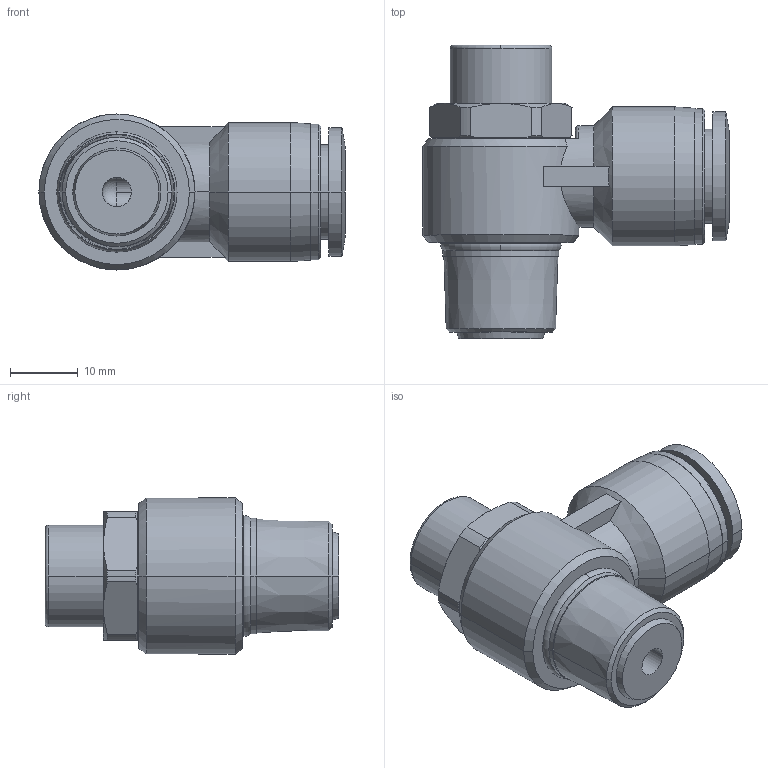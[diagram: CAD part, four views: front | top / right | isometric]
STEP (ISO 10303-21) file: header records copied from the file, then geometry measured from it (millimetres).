
FILE_DESCRIPTION (( 'STEP AP203' ), '1' );
FILE_NAME ('SCLF12-03.STEP', '2020-05-13T17:33:35', ( '' ), ( '' ), 'SwSTEP 2.0', 'SolidWorks 2019', '' );
FILE_SCHEMA (( 'CONFIG_CONTROL_DESIGN' ));
Length unit declared in the file: millimetre
Products named in the file (1): SCLF12-03
Bounding box: 45.15 x 43.3 x 23 mm (x, y, z)
Volume: 15459.9 mm3; surface area: 7073.8 mm2
Topology: 1 solids, 1 shells, 143 faces, 345 edges, 213 vertices
Faces by surface type: plane 53, cylinder 43, cone 39, torus 5, bspline 2, sphere 1
Entity records: 4443 total; most frequent: CARTESIAN_POINT 1045, DIRECTION 738, ORIENTED_EDGE 684, EDGE_CURVE 342, AXIS2_PLACEMENT_3D 300, VERTEX_POINT 213, CIRCLE 158, EDGE_LOOP 157
